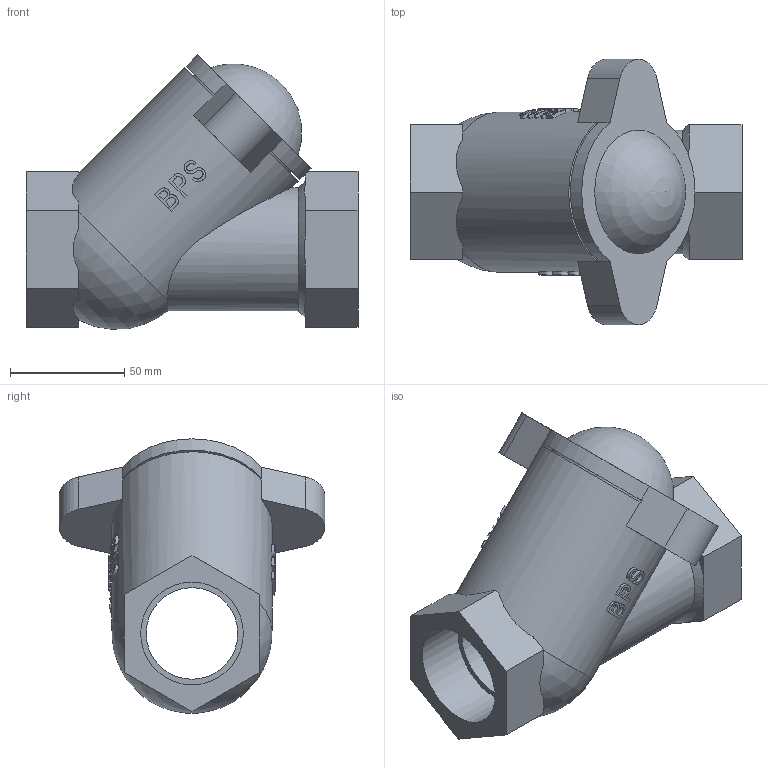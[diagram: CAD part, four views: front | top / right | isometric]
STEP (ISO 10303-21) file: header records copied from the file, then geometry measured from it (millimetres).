
FILE_DESCRIPTION( ( 'Unknown' ), '1' );
FILE_NAME( 'J:/Muud/ROOTSI BPS 3D vidinad/Kuuliga tagasiloogiklapid/STEP formaat/BPS 6540040 ball check valve DN40.stp', 'Unknown', ( 'Unknown' ), ( 'Unknown' ), 'PSStep 10.1', 'Unknown', ' ' );
FILE_SCHEMA( ( 'AUTOMOTIVE_DESIGN { 1 0 10303 214 1 1 1 1 }' ) );
Length unit declared in the file: millimetre
Products named in the file (1): 1
Bounding box: 145 x 115.91 x 119.81 mm (x, y, z)
Volume: 459570.8 mm3; surface area: 69809 mm2
Topology: 1 solids, 1 shells, 203 faces, 519 edges, 343 vertices
Faces by surface type: plane 116, bspline 46, cylinder 38, sphere 2, cone 1
Full cylindrical faces by diameter (mm): 40 x1, 44.845 x2, 54 x1, 60 x1, 70 x1
Entity records: 15398 total; most frequent: CARTESIAN_POINT 9732, ORIENTED_EDGE 1004, EDGE_CURVE 502, DIRECTION 492, B_SPLINE_CURVE_WITH_KNOTS 378, VERTEX_POINT 338, EDGE_LOOP 248, FACE_OUTER_BOUND 213
